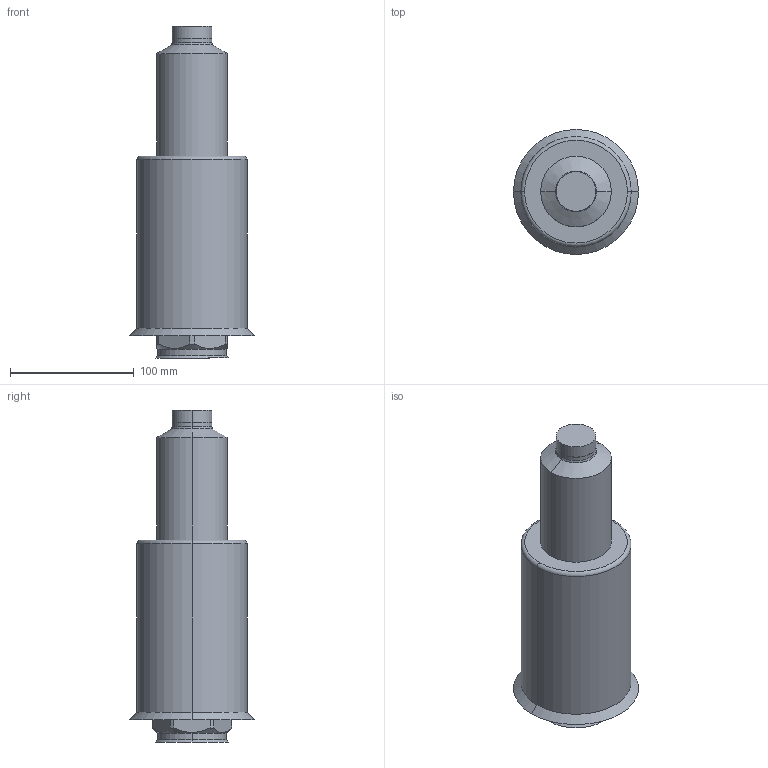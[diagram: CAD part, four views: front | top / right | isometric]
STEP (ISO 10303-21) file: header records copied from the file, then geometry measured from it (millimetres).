
FILE_DESCRIPTION (( 'STEP AP214' ), '1' );
FILE_NAME ('T24_CLOSED_250_BAND.STEP', '2009-05-11T13:21:46', ( 'Synventive Molding Solutions' ), ( 'Synventive Molding Solutions' ), 'SwSTEP 2.0', 'SolidWorks 2008', '' );
FILE_SCHEMA (( 'AUTOMOTIVE_DESIGN' ));
Length unit declared in the file: millimetre
Products named in the file (1): T24_CLOSED_250_BAND
Bounding box: 101 x 101 x 268 mm (x, y, z)
Volume: 1762091.5 mm3; surface area: 136318.4 mm2
Topology: 4 solids, 4 shells, 388 faces, 991 edges, 617 vertices
Faces by surface type: plane 155, cylinder 148, torus 61, cone 16, sphere 4, bspline 4
Entity records: 17176 total; most frequent: CARTESIAN_POINT 3341, DIRECTION 2077, ORIENTED_EDGE 1974, EDGE_CURVE 987, AXIS2_PLACEMENT_3D 803, VERTEX_POINT 617, LINE 471, VECTOR 471
